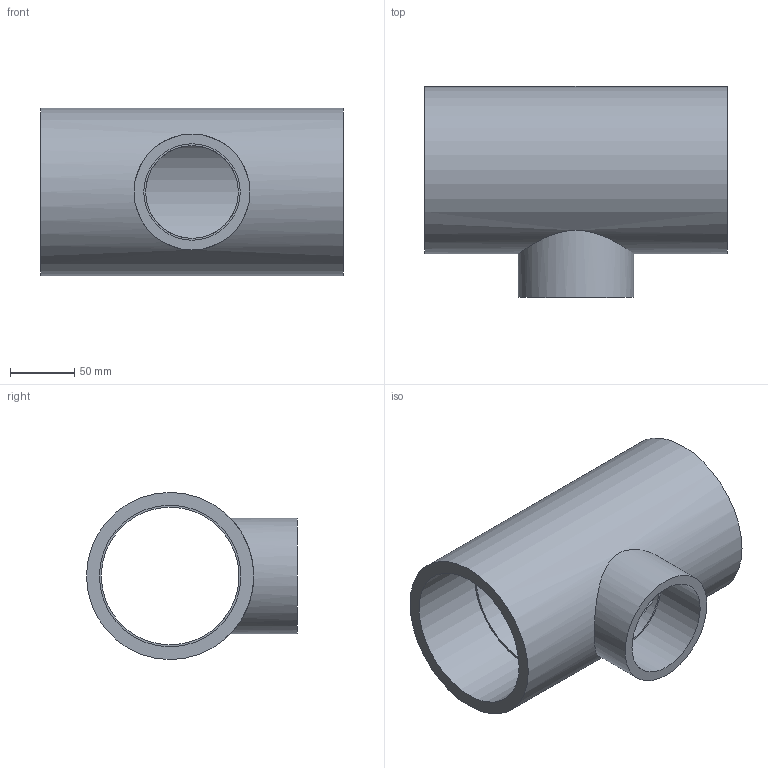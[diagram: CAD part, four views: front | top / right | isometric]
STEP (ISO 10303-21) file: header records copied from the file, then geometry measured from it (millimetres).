
FILE_DESCRIPTION(/* description */ ('PVC ti a 90° ridotto incollaggio metrico'),/* implementation_level */ '2;1');
FILE_NAME(/* name */ 'C:\Users\POLYPIPE\Desktop\DATASET INVENTOR\LIBRERIA EFFAST\RACCORDI 3DxWEB\RDR\3D_RDRTRD\3D_RDRTRD110H.stp',/* time_stamp */ '2018-01-19T15:49:38+01:00',/* author */ ('POLYPIPE'),/* organization */ ('Polypipe Italia s.r.l.'),/* preprocessor_version */ 'ST-DEVELOPER v16.1',/* originating_system */ 'Autodesk Inventor 2016',/* authorisation */ '');
FILE_SCHEMA (('CONFIG_CONTROL_DESIGN'));
Length unit declared in the file: millimetre
Products named in the file (1): 3D_RDRTRD
Bounding box: 235 x 164 x 130 mm (x, y, z)
Volume: 973392.4 mm3; surface area: 200095 mm2
Topology: 1 solids, 1 shells, 13 faces, 23 edges, 16 vertices
Faces by surface type: cylinder 7, plane 6
Full cylindrical faces by diameter (mm): 72 x1, 75 x1, 90 x1, 107 x1, 110 x2, 130 x1
Entity records: 430 total; most frequent: CARTESIAN_POINT 172, DIRECTION 52, EDGE_LOOP 28, ORIENTED_EDGE 28, AXIS2_PLACEMENT_3D 26, FACE_BOUND 15, VERTEX_POINT 14, EDGE_CURVE 14
